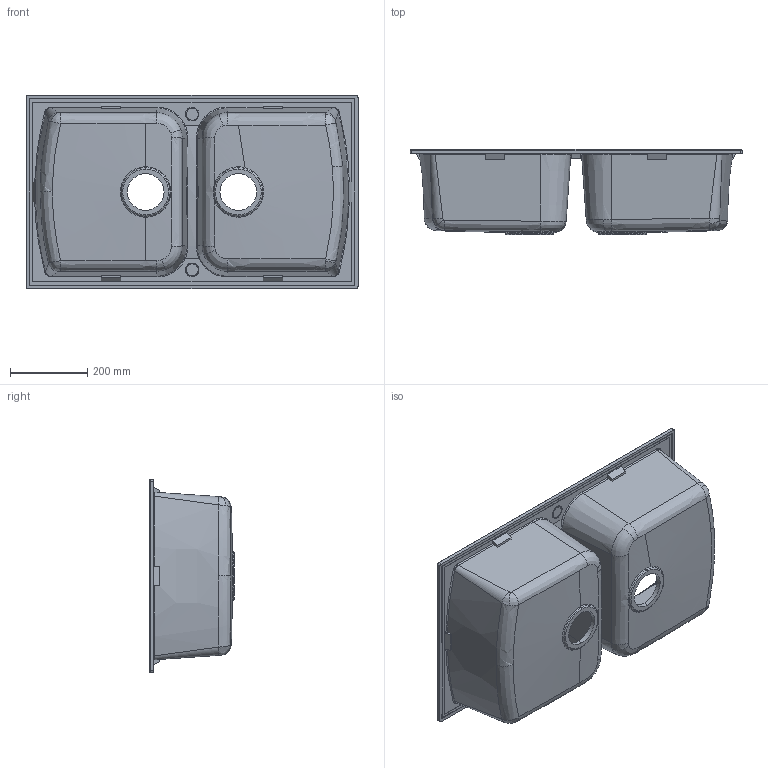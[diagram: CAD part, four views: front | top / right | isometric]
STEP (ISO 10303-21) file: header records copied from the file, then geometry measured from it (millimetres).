
FILE_DESCRIPTION(('CATIA V5 STEP Exchange'),'2;1');
FILE_NAME('M:\DISEGNI\LAVELLI\Pietra\Parti\PT862.stp','2019-05-20T14:18:03+00:00',('none'),('none'),'CATIA Version 5-6 Release 2014','CATIA V5 STEP AP203','none');
FILE_SCHEMA(('CONFIG_CONTROL_DESIGN'));
Length unit declared in the file: millimetre
Products named in the file (1): PT862
Bounding box: 860 x 220 x 500 mm (x, y, z)
Volume: 7467699.3 mm3; surface area: 1888300.5 mm2
Topology: 1 solids, 1 shells, 278 faces, 1154 edges, 877 vertices
Faces by surface type: bspline 132, plane 65, torus 33, cylinder 32, cone 16
Entity records: 18929 total; most frequent: CARTESIAN_POINT 11745, ORIENTED_EDGE 2292, EDGE_CURVE 1146, VERTEX_POINT 877, DIRECTION 574, B_SPLINE_CURVE_WITH_KNOTS 519, EDGE_LOOP 291, ADVANCED_FACE 278
